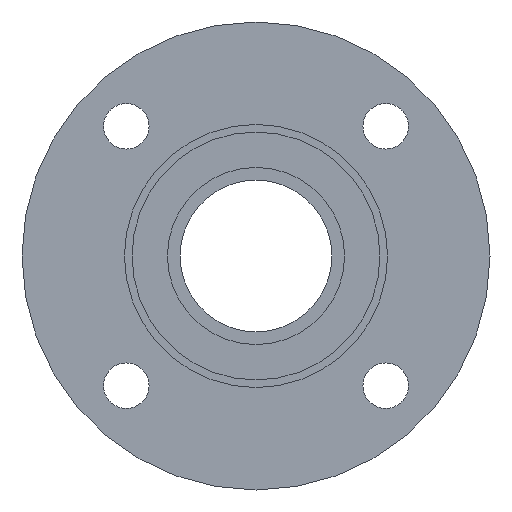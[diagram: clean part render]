
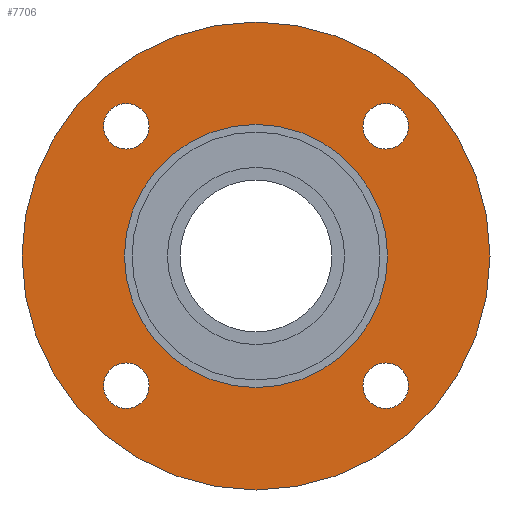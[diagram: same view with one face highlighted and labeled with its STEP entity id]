
A CAD part, left-side view. The second image highlights one B-rep face of the part: STEP entity #7706.
In plain terms, the highlighted planar face has unit normal (-1, 0, 0).
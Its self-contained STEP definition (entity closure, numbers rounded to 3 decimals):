
#7706=ADVANCED_FACE('',(#13857,#13859,#13861,#13863,#13865,#13867),#13869,.T.);
#13857=FACE_BOUND('',#13858,.T.);
#13858=EDGE_LOOP('',(#19010,#19011));
#13859=FACE_BOUND('',#13860,.T.);
#13860=EDGE_LOOP('',(#19012));
#13861=FACE_BOUND('',#13862,.T.);
#13862=EDGE_LOOP('',(#19013));
#13863=FACE_BOUND('',#13864,.T.);
#13864=EDGE_LOOP('',(#19014));
#13865=FACE_BOUND('',#13866,.T.);
#13866=EDGE_LOOP('',(#19015,#19016));
#13867=FACE_BOUND('',#13868,.T.);
#13868=EDGE_LOOP('',(#19017));
#13869=PLANE('',#13870);
#13870=AXIS2_PLACEMENT_3D('',#13871,#13872,#13873);
#13871=CARTESIAN_POINT('',(11797.527,1383.615,0.));
#13872=DIRECTION('',(-1.,0.,0.));
#13873=DIRECTION('',(0.,0.,1.));
#19010=ORIENTED_EDGE('',*,*,#21585,.F.);
#19011=ORIENTED_EDGE('',*,*,#21586,.F.);
#19012=ORIENTED_EDGE('',*,*,#21564,.T.);
#19013=ORIENTED_EDGE('',*,*,#21566,.T.);
#19014=ORIENTED_EDGE('',*,*,#21568,.T.);
#19015=ORIENTED_EDGE('',*,*,#21583,.T.);
#19016=ORIENTED_EDGE('',*,*,#21584,.T.);
#19017=ORIENTED_EDGE('',*,*,#21562,.T.);
#21562=EDGE_CURVE('',#25704,#25704,#25705,.T.);
#21564=EDGE_CURVE('',#25708,#25708,#25709,.T.);
#21566=EDGE_CURVE('',#25712,#25712,#25713,.T.);
#21568=EDGE_CURVE('',#25716,#25716,#25717,.T.);
#21583=EDGE_CURVE('',#25746,#25747,#25748,.T.);
#21584=EDGE_CURVE('',#25747,#25746,#25749,.T.);
#21585=EDGE_CURVE('',#25750,#25751,#25752,.T.);
#21586=EDGE_CURVE('',#25751,#25750,#25753,.T.);
#25704=VERTEX_POINT('',#34806);
#25705=CIRCLE('',#34807,9.);
#25708=VERTEX_POINT('',#34816);
#25709=CIRCLE('',#34817,9.);
#25712=VERTEX_POINT('',#34826);
#25713=CIRCLE('',#34827,9.);
#25716=VERTEX_POINT('',#34836);
#25717=CIRCLE('',#34837,9.);
#25746=VERTEX_POINT('',#34911);
#25747=VERTEX_POINT('',#34912);
#25748=CIRCLE('',#34913,52.);
#25749=CIRCLE('',#34917,52.);
#25750=VERTEX_POINT('',#34921);
#25751=VERTEX_POINT('',#34922);
#25752=CIRCLE('',#34923,92.5);
#25753=CIRCLE('',#34927,92.5);
#34806=CARTESIAN_POINT('',(11797.527,1424.85,60.265));
#34807=AXIS2_PLACEMENT_3D('',#34808,#34809,#34810);
#34808=CARTESIAN_POINT('',(11797.527,1424.85,51.265));
#34809=DIRECTION('',(1.,0.,0.));
#34810=DIRECTION('',(0.,0.,1.));
#34816=CARTESIAN_POINT('',(11797.527,1527.38,-42.265));
#34817=AXIS2_PLACEMENT_3D('',#34818,#34819,#34820);
#34818=CARTESIAN_POINT('',(11797.527,1527.38,-51.265));
#34819=DIRECTION('',(1.,0.,0.));
#34820=DIRECTION('',(0.,0.,1.));
#34826=CARTESIAN_POINT('',(11797.527,1424.85,-42.265));
#34827=AXIS2_PLACEMENT_3D('',#34828,#34829,#34830);
#34828=CARTESIAN_POINT('',(11797.527,1424.85,-51.265));
#34829=DIRECTION('',(1.,0.,0.));
#34830=DIRECTION('',(0.,0.,1.));
#34836=CARTESIAN_POINT('',(11797.527,1527.38,60.265));
#34837=AXIS2_PLACEMENT_3D('',#34838,#34839,#34840);
#34838=CARTESIAN_POINT('',(11797.527,1527.38,51.265));
#34839=DIRECTION('',(1.,0.,0.));
#34840=DIRECTION('',(0.,0.,1.));
#34911=CARTESIAN_POINT('',(11797.527,1424.115,0.));
#34912=CARTESIAN_POINT('',(11797.527,1528.115,0.));
#34913=AXIS2_PLACEMENT_3D('',#34914,#34915,#34916);
#34914=CARTESIAN_POINT('',(11797.527,1476.115,0.));
#34915=DIRECTION('',(1.,0.,0.));
#34916=DIRECTION('',(0.,-1.,0.));
#34917=AXIS2_PLACEMENT_3D('',#34918,#34919,#34920);
#34918=CARTESIAN_POINT('',(11797.527,1476.115,0.));
#34919=DIRECTION('',(1.,0.,0.));
#34920=DIRECTION('',(0.,1.,0.));
#34921=CARTESIAN_POINT('',(11797.527,1568.615,0.));
#34922=CARTESIAN_POINT('',(11797.527,1383.615,0.));
#34923=AXIS2_PLACEMENT_3D('',#34924,#34925,#34926);
#34924=CARTESIAN_POINT('',(11797.527,1476.115,0.));
#34925=DIRECTION('',(1.,0.,0.));
#34926=DIRECTION('',(0.,1.,0.));
#34927=AXIS2_PLACEMENT_3D('',#34928,#34929,#34930);
#34928=CARTESIAN_POINT('',(11797.527,1476.115,0.));
#34929=DIRECTION('',(1.,0.,0.));
#34930=DIRECTION('',(0.,-1.,0.));
